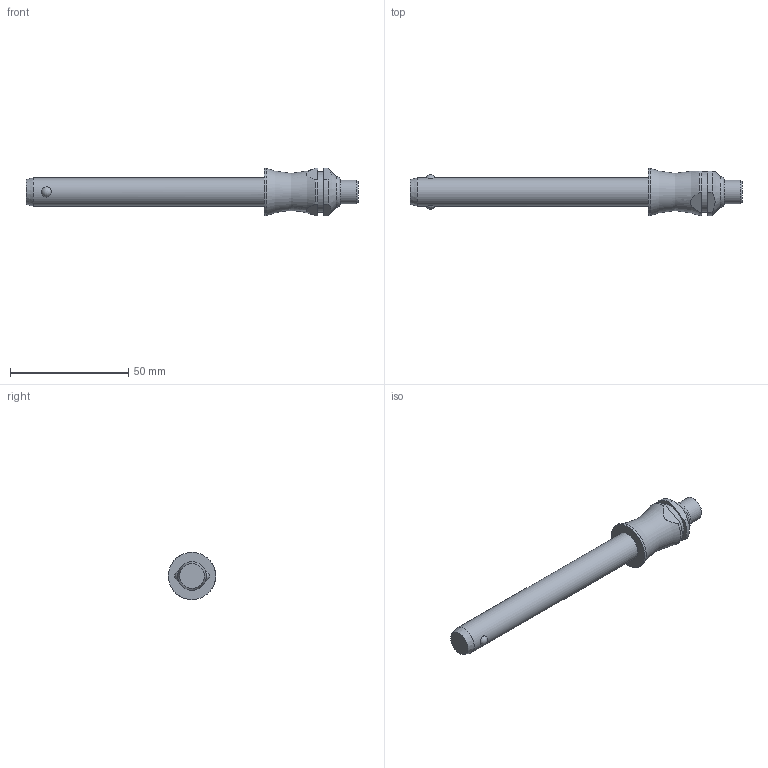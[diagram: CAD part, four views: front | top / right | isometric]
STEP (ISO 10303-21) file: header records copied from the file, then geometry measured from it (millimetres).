
FILE_DESCRIPTION( ( 'STEP AP203' ), '1' );
FILE_NAME( 'C:/Temp/Ganter_Step_05_03_2020/data/3_1/gn113_3/Stainless Steel-Ball lock pin GN 113.3-12-90 (deactivated).stp', '2020-03-12T08:18:47', ( 'License CC BY-ND 4.0' ), ( 'CADENAS' ), ' ', 'PARTsolutions', ' ' );
FILE_SCHEMA( ( 'CONFIG_CONTROL_DESIGN' ) );
Length unit declared in the file: millimetre
Products named in the file (1): _Stainless Steel-Ball lock pin GN 113.3-12-90 (deactivated)
Bounding box: 140.1 x 20 x 20 mm (x, y, z)
Volume: 19316.3 mm3; surface area: 6354.8 mm2
Topology: 1 solids, 1 shells, 28 faces, 60 edges, 39 vertices
Faces by surface type: plane 11, cylinder 10, cone 3, torus 2, sphere 2
Full cylindrical faces by diameter (mm): 10 x1, 12 x1, 17 x1, 20 x1
Entity records: 954 total; most frequent: CARTESIAN_POINT 338, DIRECTION 122, ORIENTED_EDGE 98, AXIS2_PLACEMENT_3D 52, EDGE_CURVE 49, EDGE_LOOP 42, VERTEX_POINT 38, FACE_OUTER_BOUND 34
